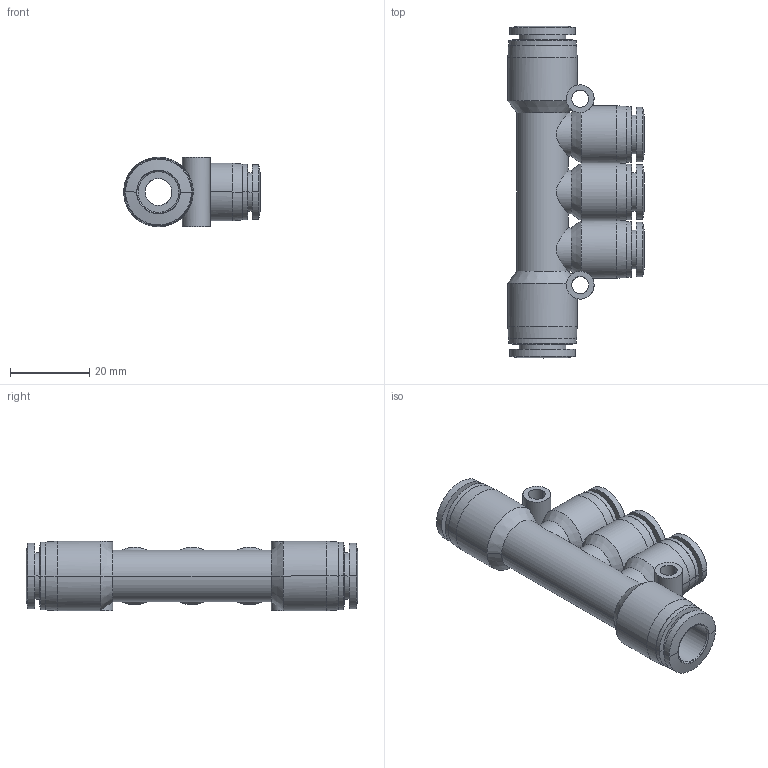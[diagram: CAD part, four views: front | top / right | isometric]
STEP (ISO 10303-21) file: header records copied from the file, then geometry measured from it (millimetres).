
FILE_DESCRIPTION (( 'STEP AP203' ), '1' );
FILE_NAME ('FRG10-08.STEP', '2020-05-12T14:59:10', ( '' ), ( '' ), 'SwSTEP 2.0', 'SolidWorks 2019', '' );
FILE_SCHEMA (( 'CONFIG_CONTROL_DESIGN' ));
Length unit declared in the file: millimetre
Products named in the file (1): FRG10-08
Bounding box: 34.4 x 83.7 x 17.5 mm (x, y, z)
Volume: 15801.8 mm3; surface area: 12587.7 mm2
Topology: 1 solids, 1 shells, 153 faces, 354 edges, 218 vertices
Faces by surface type: cylinder 74, cone 40, plane 29, bspline 10
Entity records: 9059 total; most frequent: CARTESIAN_POINT 6038, ORIENTED_EDGE 708, DIRECTION 406, EDGE_CURVE 354, VERTEX_POINT 218, B_SPLINE_CURVE_WITH_KNOTS 210, EDGE_LOOP 184, ADVANCED_FACE 153
